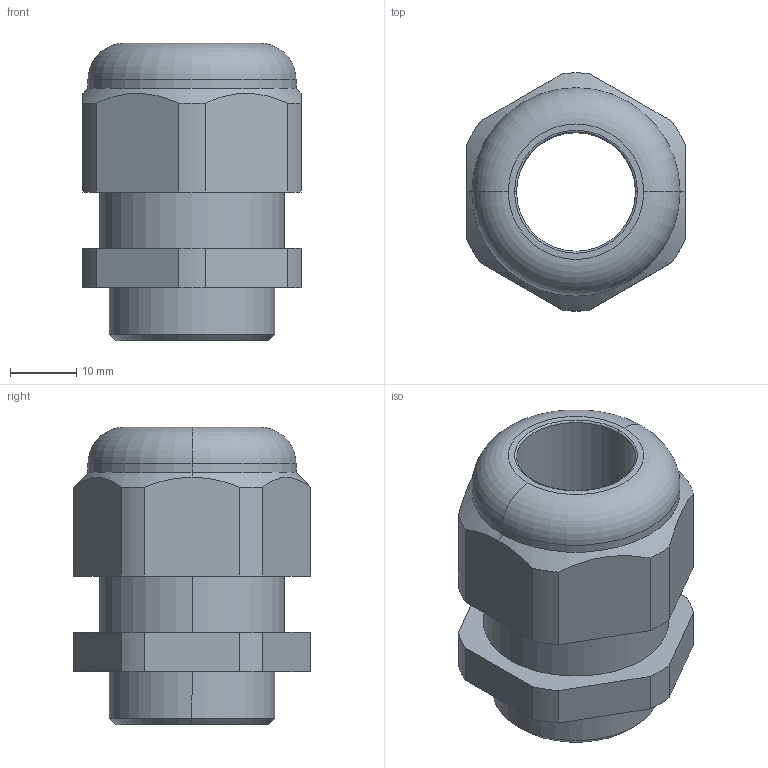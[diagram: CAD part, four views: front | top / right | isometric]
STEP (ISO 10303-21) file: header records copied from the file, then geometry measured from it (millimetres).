
FILE_DESCRIPTION (( 'STEP AP203' ), '1' );
FILE_NAME ('50.021M25PA08.STEP', '2005-09-19T11:17:21', ( ' ' ), ( '' ), 'SwSTEP 2.0', 'SolidWorks 2005143', '' );
FILE_SCHEMA (( 'CONFIG_CONTROL_DESIGN' ));
Length unit declared in the file: millimetre
Products named in the file (1): 50.021M25PA08
Bounding box: 33 x 35.97 x 45 mm (x, y, z)
Volume: 22445.2 mm3; surface area: 8578.1 mm2
Topology: 1 solids, 1 shells, 82 faces, 214 edges, 140 vertices
Faces by surface type: plane 54, cylinder 20, cone 4, torus 4
Entity records: 2661 total; most frequent: CARTESIAN_POINT 529, ORIENTED_EDGE 428, DIRECTION 422, EDGE_CURVE 214, VECTOR 156, LINE 156, VERTEX_POINT 140, AXIS2_PLACEMENT_3D 133
